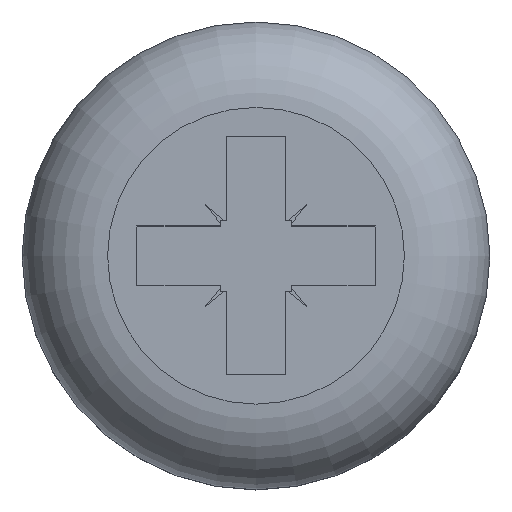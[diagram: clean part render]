
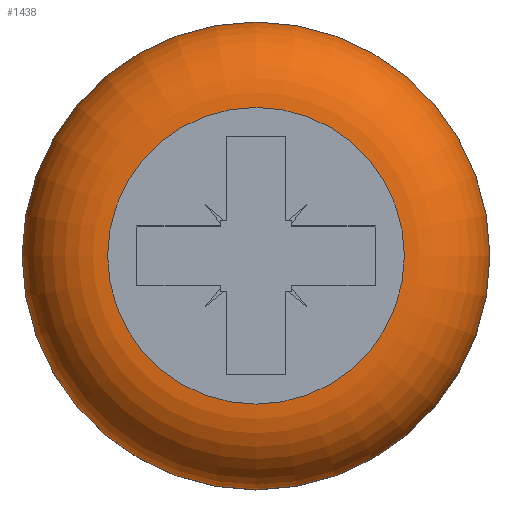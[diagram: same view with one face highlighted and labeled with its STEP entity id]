
A CAD part, top view. The second image highlights one B-rep face of the part: STEP entity #1438.
In plain terms, the highlighted toroidal (fillet/blend) face has major radius 3.425 mm and minor radius 1.975 mm.
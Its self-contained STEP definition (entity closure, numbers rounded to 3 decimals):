
#18=TOROIDAL_SURFACE('',#1523,3.425,1.975);
#87=FACE_OUTER_BOUND('',#155,.T.);
#155=EDGE_LOOP('',(#1166,#1167,#1168,#1169,#1170));
#200=CIRCLE('',#1524,5.4);
#201=CIRCLE('',#1525,1.975);
#202=CIRCLE('',#1526,3.425);
#203=CIRCLE('',#1527,5.4);
#636=VERTEX_POINT('',#19238);
#637=VERTEX_POINT('',#19239);
#638=VERTEX_POINT('',#19241);
#827=EDGE_CURVE('',#636,#637,#200,.T.);
#828=EDGE_CURVE('',#637,#638,#201,.T.);
#829=EDGE_CURVE('',#638,#638,#202,.T.);
#830=EDGE_CURVE('',#637,#636,#203,.T.);
#1166=ORIENTED_EDGE('',*,*,#827,.T.);
#1167=ORIENTED_EDGE('',*,*,#828,.T.);
#1168=ORIENTED_EDGE('',*,*,#829,.T.);
#1169=ORIENTED_EDGE('',*,*,#828,.F.);
#1170=ORIENTED_EDGE('',*,*,#830,.T.);
#1438=ADVANCED_FACE('',(#87),#18,.T.);
#1523=AXIS2_PLACEMENT_3D('',#19237,#1660,#1661);
#1524=AXIS2_PLACEMENT_3D('',#19240,#1662,#1663);
#1525=AXIS2_PLACEMENT_3D('',#19242,#1664,#1665);
#1526=AXIS2_PLACEMENT_3D('',#19243,#1666,#1667);
#1527=AXIS2_PLACEMENT_3D('',#19244,#1668,#1669);
#1660=DIRECTION('center_axis',(0.,0.,-1.));
#1661=DIRECTION('ref_axis',(-1.,0.,0.));
#1662=DIRECTION('center_axis',(0.,0.,1.));
#1663=DIRECTION('ref_axis',(0.,-1.,0.));
#1664=DIRECTION('center_axis',(0.,-1.,0.));
#1665=DIRECTION('ref_axis',(1.,0.,0.));
#1666=DIRECTION('center_axis',(0.,0.,-1.));
#1667=DIRECTION('ref_axis',(0.,-1.,0.));
#1668=DIRECTION('center_axis',(0.,0.,1.));
#1669=DIRECTION('ref_axis',(0.,-1.,0.));
#19237=CARTESIAN_POINT('Origin',(0.,0.,26.975));
#19238=CARTESIAN_POINT('',(0.,-5.4,26.975));
#19239=CARTESIAN_POINT('',(5.4,0.,26.975));
#19240=CARTESIAN_POINT('Origin',(0.,0.,26.975));
#19241=CARTESIAN_POINT('',(3.425,0.,28.95));
#19242=CARTESIAN_POINT('Origin',(3.425,0.,26.975));
#19243=CARTESIAN_POINT('Origin',(0.,0.,28.95));
#19244=CARTESIAN_POINT('Origin',(0.,0.,26.975));
